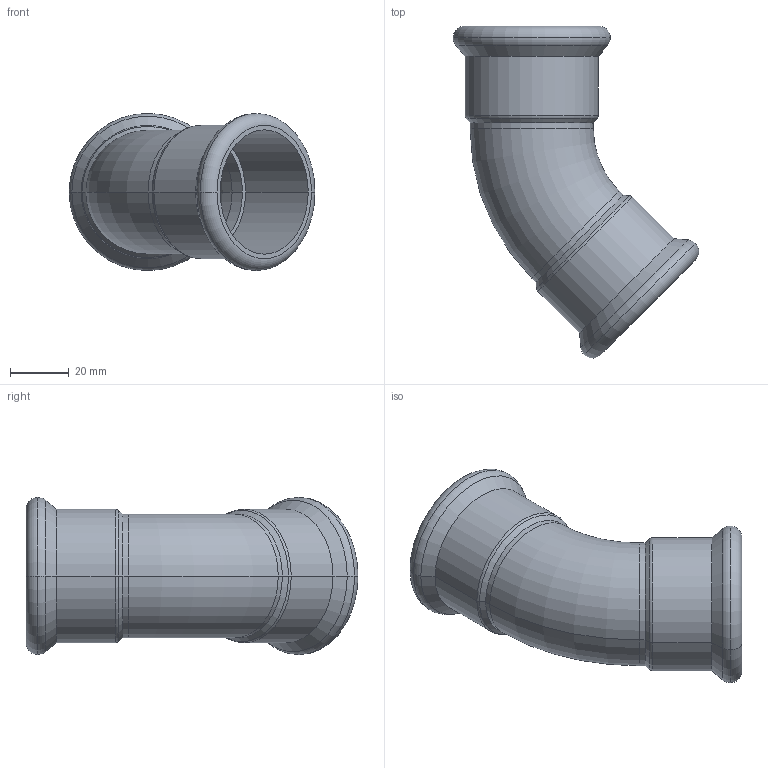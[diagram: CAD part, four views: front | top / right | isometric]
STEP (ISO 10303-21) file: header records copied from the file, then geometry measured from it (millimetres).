
FILE_DESCRIPTION(('CoCreate Modeling STEP Export'),'2;1');
FILE_NAME('C1413 42x42.stp','2014-11-11T16:50:20',(''),(''),'CoCreate Modeling STEP processor for AP214 (Solid Model)','CoCreate Modeling 17.00A 17-Jun-2010 (C) Parametric Technology GmbH','');
FILE_SCHEMA(('AUTOMOTIVE_DESIGN { 1 0 10303 214 1 1 1 1 }'));
Length unit declared in the file: millimetre
Products named in the file (2): C1413_42x42
Assembly tree (1 placements, depth 2):
  C1413_42x42
    C1413_42x42
Bounding box: 83.7 x 113.02 x 53.55 mm (x, y, z)
Volume: 31572.1 mm3; surface area: 32082.6 mm2
Topology: 1 solids, 1 shells, 50 faces, 106 edges, 62 vertices
Faces by surface type: cylinder 20, torus 16, cone 8, plane 6
Entity records: 1129 total; most frequent: ORIENTED_EDGE 212, DIRECTION 176, CARTESIAN_POINT 164, EDGE_CURVE 106, AXIS2_PLACEMENT_3D 74, VERTEX_POINT 62, EDGE_LOOP 56, FACE_OUTER_BOUND 50
